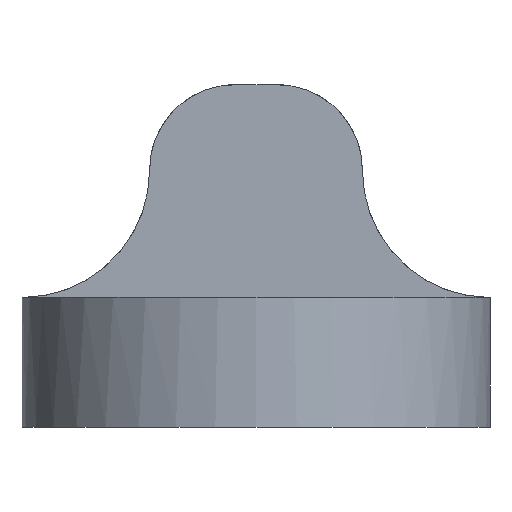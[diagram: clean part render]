
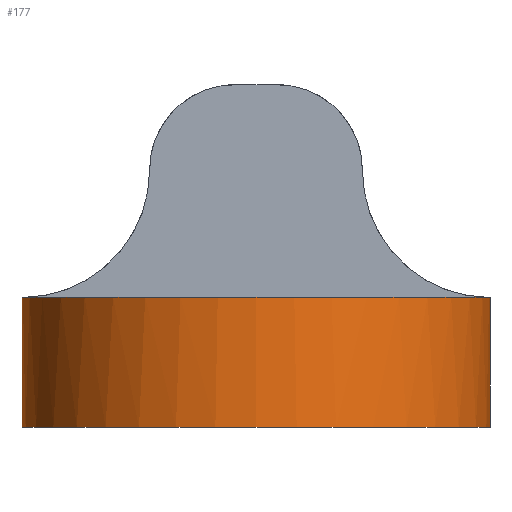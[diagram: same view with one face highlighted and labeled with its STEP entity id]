
A CAD part, left-side view. The second image highlights one B-rep face of the part: STEP entity #177.
In plain terms, the highlighted cylindrical face has radius 11 mm (diameter 22 mm), a partial arc.
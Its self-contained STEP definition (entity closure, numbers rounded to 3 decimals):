
#63=CARTESIAN_POINT('Vertex',(-8.,-10.954,80.7)) ;
#91=CARTESIAN_POINT('Vertex',(-8.,10.954,80.7)) ;
#108=CARTESIAN_POINT('Axis2P3D Location',(-7.,0.,77.65)) ;
#113=CARTESIAN_POINT('Axis2P3D Location',(-7.,0.,80.7)) ;
#117=CARTESIAN_POINT('Vertex',(-18.,0.,80.7)) ;
#120=CARTESIAN_POINT('Axis2P3D Location',(-7.,0.,80.7)) ;
#126=CARTESIAN_POINT('Control Point',(-7.,11.,80.7)) ;
#127=CARTESIAN_POINT('Control Point',(-7.334,11.,80.7)) ;
#128=CARTESIAN_POINT('Control Point',(-7.668,10.985,80.7)) ;
#129=CARTESIAN_POINT('Control Point',(-8.,10.954,80.7)) ;
#130=CARTESIAN_POINT('Vertex',(-7.,11.,80.7)) ;
#133=CARTESIAN_POINT('Line Origine',(-7.,11.,82.65)) ;
#137=CARTESIAN_POINT('Vertex',(-7.,11.,74.6)) ;
#140=CARTESIAN_POINT('Axis2P3D Location',(-7.,0.,74.6)) ;
#144=CARTESIAN_POINT('Vertex',(-18.,0.,74.6)) ;
#147=CARTESIAN_POINT('Axis2P3D Location',(-7.,0.,74.6)) ;
#151=CARTESIAN_POINT('Vertex',(-7.,-11.,74.6)) ;
#154=CARTESIAN_POINT('Line Origine',(-7.,-11.,82.65)) ;
#158=CARTESIAN_POINT('Vertex',(-7.,-11.,80.7)) ;
#162=CARTESIAN_POINT('Control Point',(-7.,-11.,80.7)) ;
#163=CARTESIAN_POINT('Control Point',(-7.334,-11.,80.7)) ;
#164=CARTESIAN_POINT('Control Point',(-7.668,-10.985,80.7)) ;
#165=CARTESIAN_POINT('Control Point',(-8.,-10.954,80.7)) ;
#109=DIRECTION('Axis2P3D Direction',(0.,0.,1.)) ;
#110=DIRECTION('Axis2P3D XDirection',(0.,1.,0.)) ;
#114=DIRECTION('Axis2P3D Direction',(0.,0.,1.)) ;
#121=DIRECTION('Axis2P3D Direction',(0.,0.,1.)) ;
#134=DIRECTION('Vector Direction',(0.,0.,1.)) ;
#141=DIRECTION('Axis2P3D Direction',(0.,0.,1.)) ;
#148=DIRECTION('Axis2P3D Direction',(0.,0.,1.)) ;
#155=DIRECTION('Vector Direction',(0.,0.,1.)) ;
#111=AXIS2_PLACEMENT_3D('Cylinder Axis2P3D',#108,#109,#110) ;
#115=AXIS2_PLACEMENT_3D('Circle Axis2P3D',#113,#114,$) ;
#122=AXIS2_PLACEMENT_3D('Circle Axis2P3D',#120,#121,$) ;
#142=AXIS2_PLACEMENT_3D('Circle Axis2P3D',#140,#141,$) ;
#149=AXIS2_PLACEMENT_3D('Circle Axis2P3D',#147,#148,$) ;
#168=ORIENTED_EDGE('',*,*,#119,.F.) ;
#169=ORIENTED_EDGE('',*,*,#124,.F.) ;
#170=ORIENTED_EDGE('',*,*,#132,.T.) ;
#171=ORIENTED_EDGE('',*,*,#139,.F.) ;
#172=ORIENTED_EDGE('',*,*,#146,.T.) ;
#173=ORIENTED_EDGE('',*,*,#153,.T.) ;
#174=ORIENTED_EDGE('',*,*,#160,.T.) ;
#175=ORIENTED_EDGE('',*,*,#166,.T.) ;
#135=VECTOR('Line Direction',#134,1.) ;
#156=VECTOR('Line Direction',#155,1.) ;
#177=ADVANCED_FACE('Corps principal',(#176),#112,.T.) ;
#125=B_SPLINE_CURVE_WITH_KNOTS('',3,(#126,#127,#128,#129),.UNSPECIFIED.,.F.,.U.,(4,4),(0.,1.416),.UNSPECIFIED.) ;
#161=B_SPLINE_CURVE_WITH_KNOTS('',3,(#162,#163,#164,#165),.UNSPECIFIED.,.F.,.U.,(4,4),(0.,1.416),.UNSPECIFIED.) ;
#116=CIRCLE('generated circle',#115,11.) ;
#123=CIRCLE('generated circle',#122,11.) ;
#143=CIRCLE('generated circle',#142,11.) ;
#150=CIRCLE('generated circle',#149,11.) ;
#112=CYLINDRICAL_SURFACE('generated cylinder',#111,11.) ;
#119=EDGE_CURVE('',#118,#64,#116,.T.) ;
#124=EDGE_CURVE('',#92,#118,#123,.T.) ;
#132=EDGE_CURVE('',#92,#131,#125,.F.) ;
#139=EDGE_CURVE('',#138,#131,#136,.T.) ;
#146=EDGE_CURVE('',#138,#145,#143,.T.) ;
#153=EDGE_CURVE('',#145,#152,#150,.T.) ;
#160=EDGE_CURVE('',#152,#159,#157,.T.) ;
#166=EDGE_CURVE('',#159,#64,#161,.T.) ;
#167=EDGE_LOOP('',(#168,#169,#170,#171,#172,#173,#174,#175)) ;
#176=FACE_OUTER_BOUND('',#167,.T.) ;
#136=LINE('Line',#133,#135) ;
#157=LINE('Line',#154,#156) ;
#64=VERTEX_POINT('',#63) ;
#92=VERTEX_POINT('',#91) ;
#118=VERTEX_POINT('',#117) ;
#131=VERTEX_POINT('',#130) ;
#138=VERTEX_POINT('',#137) ;
#145=VERTEX_POINT('',#144) ;
#152=VERTEX_POINT('',#151) ;
#159=VERTEX_POINT('',#158) ;
